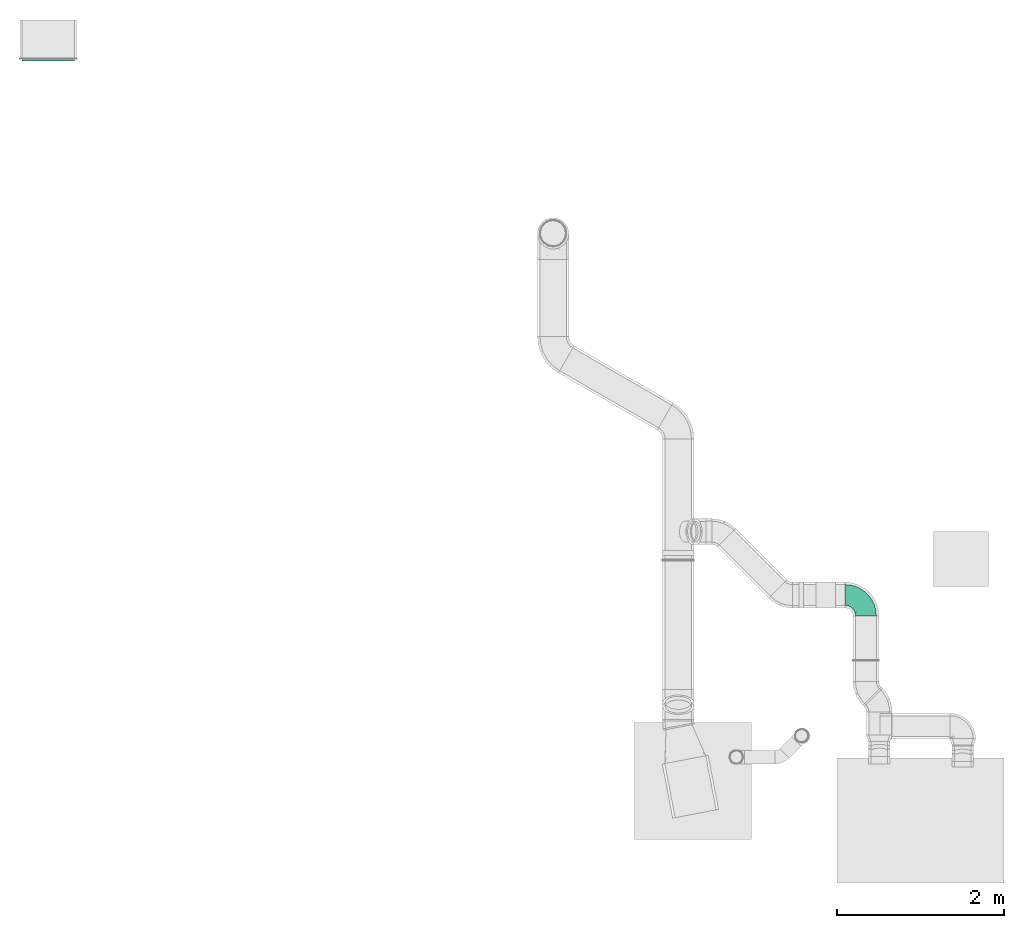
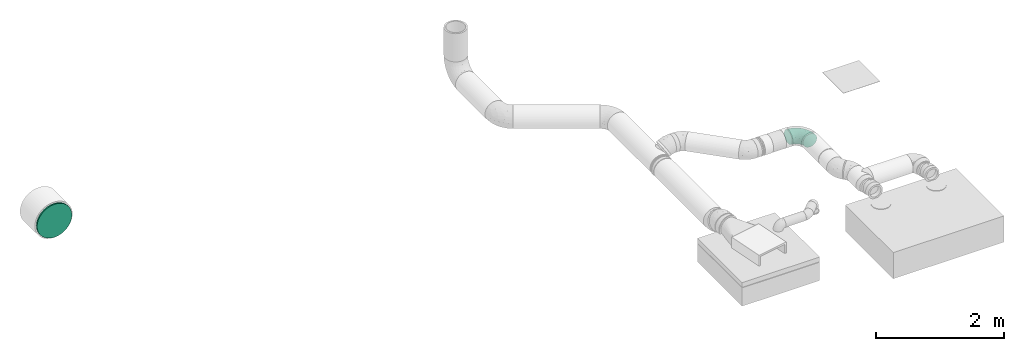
# One storey, part 20 of 21: 2 flow fittings.
"""IFC2X3 building model written with IfcOpenShell, lengths in millimetres."""

from ifc_helpers import new_model, entity, si_unit, converted_unit, derived_unit, direction, frame, origin_with_axes, place, context, subcontext, project, spatial, open_shell, surface_model, source, transform, mapped, type_object, element, save


model = new_model("IFC2X3")

# Units and contexts
model_context = context("Model", 3, precision=0.01, world=frame((0.0, 4.29681676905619e-09, 0.0)), true_north=direction((4.01073788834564e-13, 1.0)))
plan_context = context("Plan", 3, precision=0.01, world=frame((0.0, 4.29681676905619e-09, 0.0)), true_north=direction((4.01073788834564e-13, 1.0)))
body_context = subcontext(model_context, "Body", "Model", "MODEL_VIEW")
ifc_project = project(units=[converted_unit("PLANEANGLEUNIT", "DEGREE", entity("IfcPositiveLengthMeasure", 0.0174532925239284), si_unit("PLANEANGLEUNIT", "RADIAN"), dimensions=[0, 0, 0, 0, 0, 0, 0]), si_unit("AREAUNIT", "SQUARE_METRE"), si_unit("LENGTHUNIT", "METRE", prefix="MILLI"), si_unit("MASSUNIT", "GRAM", prefix="KILO"), si_unit("POWERUNIT", "WATT"), si_unit("PRESSUREUNIT", "PASCAL"), si_unit("FORCEUNIT", "NEWTON", prefix="KILO"), si_unit("ELECTRICVOLTAGEUNIT", "VOLT"), si_unit("ELECTRICCURRENTUNIT", "AMPERE"), si_unit("THERMODYNAMICTEMPERATUREUNIT", "DEGREE_CELSIUS"), si_unit("TIMEUNIT", "SECOND"), si_unit("VOLUMEUNIT", "CUBIC_METRE"), derived_unit("LINEARVELOCITYUNIT", [(si_unit("LENGTHUNIT", "METRE"), 1), (si_unit("TIMEUNIT", "SECOND"), -1)]), derived_unit("VOLUMETRICFLOWRATEUNIT", [(si_unit("VOLUMEUNIT", "CUBIC_METRE"), 1), (si_unit("TIMEUNIT", "SECOND"), -1)]), derived_unit("THERMALTRANSMITTANCEUNIT", [(si_unit("POWERUNIT", "WATT"), 1), (si_unit("THERMODYNAMICTEMPERATUREUNIT", "KELVIN"), -1), (si_unit("AREAUNIT", "SQUARE_METRE"), -1)]), derived_unit("SOUNDPRESSUREUNIT", [(si_unit("PRESSUREUNIT", "PASCAL"), 1)])], contexts=[model_context, plan_context])

# Site, building, storey
site_placement = place(None, frame((0.0, -4.29681676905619e-09, 0.0), z_axis=(0.0, 0.0, 1.0), x_axis=(1.0, 0.0, 0.0)))
site = spatial("IfcSite", under=ifc_project, at=site_placement, Name="ENGM", CompositionType="ELEMENT")
building_placement = place(site_placement, frame((0.0, 4.29681676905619e-09, 0.0), z_axis=(0.0, 0.0, 1.0), x_axis=(1.0, 0.0, 0.0)))
building = spatial("IfcBuilding", under=site, at=building_placement, Name="TI", CompositionType="ELEMENT")
storey_placement = place(building_placement, frame((0.0, 0.0, 210900.0), z_axis=(0.0, 0.0, 1.0), x_axis=(1.0, 0.0, 0.0)))
storey = spatial("IfcBuildingStorey", under=building, at=storey_placement, Name="Nivå F", CompositionType="ELEMENT", Elevation=210900.0)

# Flow fittings
duct_fitting_type_1 = type_object("IfcDuctFittingType", Name="magicirc_tapoutlet_001", PredefinedType="CONNECTOR")
shared_shape_1 = source(origin_with_axes(), body_context, "Body", "SurfaceModel", [
    surface_model("IfcShellBasedSurfaceModel", [(20.0, -291.02204, -120.54529), (20.0, -261.91292, -175.00462), (20.0, -308.94735, 61.45345), (20.0, 315.0, 0.0), (20.0, 222.73864, -222.73864), (20.0, 261.91292, -175.00462), (20.0, -120.54529, 291.02204), (0.0, -61.45345, 308.94735), (0.0, -120.54529, 291.02204), (20.0, -261.91292, 175.00462), (0.0, -261.91292, 175.00462), (0.0, -291.02204, 120.54529), (0.0, -308.94735, -61.45345), (0.0, -291.02204, -120.54529), (20.0, -222.73864, -222.73864), (0.0, -261.91292, -175.00462), (20.0, -61.45345, -308.94735), (20.0, -120.54529, -291.02204), (0.0, -61.45345, -308.94735), (20.0, -175.00462, -261.91292), (0.0, -175.00462, -261.91292), (0.0, -120.54529, -291.02204), (0.0, 61.45345, -308.94735), (20.0, 120.54529, -291.02204), (20.0, 61.45345, -308.94735), (0.0, 120.54529, -291.02204), (0.0, 175.00462, -261.91292), (20.0, 175.00462, -261.91292), (0.0, 261.91292, -175.00462), (0.0, 291.02204, -120.54529), (0.0, 308.94735, -61.45345), (20.0, 291.02204, -120.54529), (0.0, 291.02204, 120.54529), (0.0, 261.91292, 175.00462), (20.0, 261.91292, 175.00462), (0.0, 120.54529, 291.02204), (0.0, 61.45345, 308.94735), (20.0, 120.54529, 291.02204), (20.0, 291.02204, 120.54529), (20.0, 0.0, -315.0), (20.0, -308.94735, -61.45345), (20.0, -315.0, 0.0), (20.0, 308.94735, -61.45345), (20.0, 308.94735, 61.45345), (20.0, 222.73864, 222.73864), (20.0, 175.00462, 261.91292), (20.0, 61.45345, 308.94735), (20.0, -291.02204, 120.54529), (20.0, -222.73864, 222.73864), (20.0, -61.45345, 308.94735), (20.0, -175.00462, 261.91292), (20.0, 0.0, 315.0), (0.0, 0.0, 315.0), (0.0, 222.73864, 222.73864), (0.0, 175.00462, 261.91292), (0.0, 308.94735, 61.45345), (0.0, 315.0, 0.0), (0.0, 222.73864, -222.73864), (0.0, 0.0, -315.0), (0.0, -222.73864, -222.73864), (0.0, -315.0, 0.0), (0.0, -308.94735, 61.45345), (0.0, -222.73864, 222.73864), (0.0, -175.00462, 261.91292), (-6.10075, 61.45345, -308.94735), (-6.10075, 175.00462, -261.91292), (-6.10075, 120.54529, -291.02204), (-6.10075, 0.0, -315.0), (-6.10075, -61.45345, -308.94735), (-6.10075, 291.02204, 120.54529), (-6.10075, 291.02204, -120.54529), (-6.10075, 261.91292, -175.00462), (-6.10075, 308.94735, 61.45345), (-6.10075, 222.73864, -222.73864), (-6.10075, -315.0, 0.0), (-6.10075, -308.94735, 61.45345), (-6.10075, -175.00462, -261.91292), (-6.10075, -120.54529, -291.02204), (-6.10075, -222.73864, -222.73864), (-6.10075, -261.91292, -175.00462), (-6.10075, -291.02204, -120.54529), (-6.10075, -308.94735, -61.45345), (-6.10075, 308.94735, -61.45345), (-6.10075, 222.73864, 222.73864), (-6.10075, 261.91292, 175.00462), (-6.10075, 175.00462, 261.91292), (-6.10075, 120.54529, 291.02204), (-6.10075, 0.0, 315.0), (-6.10075, 61.45345, 308.94735), (-6.10075, -261.91292, 175.00462), (-6.10075, -222.73864, 222.73864), (-6.10075, -291.02204, 120.54529), (-6.10075, -120.54529, 291.02204), (-6.10075, -61.45345, 308.94735), (-6.10075, -175.00462, 261.91292), (-6.10075, 315.0, 0.0)], [open_shell([[[0, 1, 2]], [[3, 4, 5]], [[6, 7, 8]], [[9, 10, 11]], [[0, 12, 13]], [[14, 1, 15]], [[16, 17, 18]], [[19, 20, 21]], [[21, 18, 17]], [[22, 23, 24]], [[25, 26, 27]], [[23, 22, 25]], [[28, 5, 4]], [[29, 30, 31]], [[32, 33, 34]], [[35, 36, 37]], [[23, 27, 24]], [[24, 38, 39]], [[3, 24, 27]], [[31, 3, 5]], [[4, 3, 27]], [[1, 39, 2]], [[16, 39, 17]], [[14, 19, 39]], [[39, 19, 17]], [[39, 1, 14]], [[0, 2, 40]], [[40, 2, 41]], [[3, 31, 42]], [[3, 43, 38]], [[38, 34, 39]], [[39, 34, 44]], [[39, 45, 37]], [[46, 39, 37]], [[39, 44, 45]], [[9, 39, 46]], [[2, 39, 9]], [[47, 2, 9]], [[46, 48, 9]], [[49, 6, 46]], [[50, 46, 6]], [[48, 46, 50]], [[49, 46, 51]], [[24, 3, 38]], [[52, 51, 46]], [[36, 46, 37]], [[35, 37, 45]], [[52, 46, 36]], [[53, 54, 45]], [[54, 35, 45]], [[45, 44, 53]], [[32, 34, 38]], [[55, 38, 43]], [[56, 43, 3]], [[44, 33, 53]], [[44, 34, 33]], [[38, 55, 32]], [[43, 56, 55]], [[56, 3, 42]], [[30, 42, 31]], [[29, 31, 5]], [[56, 42, 30]], [[4, 57, 28]], [[28, 29, 5]], [[25, 27, 23]], [[58, 24, 39]], [[4, 26, 57]], [[4, 27, 26]], [[24, 58, 22]], [[58, 39, 16]], [[19, 21, 17]], [[58, 16, 18]], [[20, 19, 59]], [[19, 14, 59]], [[13, 1, 0]], [[12, 0, 40]], [[60, 40, 41]], [[14, 15, 59]], [[13, 15, 1]], [[40, 60, 12]], [[60, 41, 2]], [[61, 2, 47]], [[11, 47, 9]], [[60, 2, 61]], [[47, 11, 61]], [[62, 10, 9]], [[9, 48, 62]], [[8, 50, 6]], [[7, 6, 49]], [[52, 49, 51]], [[48, 63, 62]], [[48, 50, 63]], [[8, 63, 50]], [[49, 52, 7]], [[24, 3, 39]], [[14, 39, 1]], [[39, 38, 34]], [[39, 46, 9]], [[39, 9, 47]], [[39, 47, 2]], [[3, 38, 39]], [[64, 65, 66]], [[67, 68, 64]], [[65, 64, 69]], [[70, 71, 72]], [[71, 73, 72]], [[65, 72, 73]], [[64, 74, 75]], [[76, 64, 77]], [[76, 78, 74]], [[64, 68, 77]], [[74, 79, 80]], [[80, 81, 74]], [[74, 78, 79]], [[64, 76, 74]], [[82, 70, 72]], [[65, 69, 72]], [[69, 64, 83]], [[69, 83, 84]], [[85, 64, 86]], [[64, 87, 86]], [[85, 83, 64]], [[88, 86, 87]], [[89, 90, 87]], [[89, 75, 91]], [[75, 89, 87]], [[92, 93, 87]], [[87, 94, 92]], [[90, 94, 87]], [[75, 87, 64]], [[95, 82, 72]], [[87, 52, 36]], [[88, 36, 35]], [[86, 35, 54]], [[87, 36, 88]], [[86, 88, 35]], [[83, 85, 54]], [[85, 86, 54]], [[54, 53, 83]], [[69, 33, 32]], [[72, 32, 55]], [[95, 55, 56]], [[53, 84, 83]], [[53, 33, 84]], [[69, 84, 33]], [[32, 72, 69]], [[55, 95, 72]], [[95, 56, 30]], [[82, 30, 29]], [[70, 29, 28]], [[95, 30, 82]], [[70, 82, 29]], [[57, 73, 71]], [[71, 70, 28]], [[71, 28, 57]], [[66, 26, 25]], [[64, 25, 22]], [[67, 22, 58]], [[57, 65, 73]], [[57, 26, 65]], [[66, 65, 26]], [[25, 64, 66]], [[22, 67, 64]], [[67, 58, 18]], [[68, 18, 21]], [[77, 21, 20]], [[67, 18, 68]], [[20, 76, 77]], [[77, 68, 21]], [[76, 20, 78]], [[20, 59, 78]], [[80, 15, 13]], [[81, 13, 12]], [[74, 12, 60]], [[59, 79, 78]], [[59, 15, 79]], [[80, 79, 15]], [[13, 81, 80]], [[12, 74, 81]], [[74, 60, 61]], [[75, 61, 11]], [[91, 11, 10]], [[74, 61, 75]], [[11, 91, 75]], [[10, 89, 91]], [[90, 89, 10]], [[10, 62, 90]], [[92, 63, 8]], [[93, 8, 7]], [[87, 7, 52]], [[62, 94, 90]], [[62, 63, 94]], [[92, 94, 63]], [[8, 93, 92]], [[7, 87, 93]], [[65, 64, 72]], [[72, 64, 69]], [[84, 69, 64]], [[84, 64, 83]], [[88, 86, 64]], [[64, 85, 83]], [[87, 88, 64]], [[91, 89, 87]], [[64, 75, 91]], [[64, 91, 87]]])]),
])
flow_fitting_1_placement = place(storey_placement, frame((599767.06731, 699175.62991, 463.401000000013), z_axis=(1.0, 0.0, 0.0), x_axis=(0.0, 0.999999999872, -1.5999999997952e-05)))
element("IfcFlowFitting", 1, at=flow_fitting_1_placement, inside=storey, type_object=duct_fitting_type_1, Name="magicirc_tapoutlet_001", context=body_context, shape_type="MappedRepresentation", body=[
    mapped(shared_shape_1, transform((0.0, 0.0, 0.0), scale=1.0)),
])
duct_fitting_type_2 = type_object("IfcDuctFittingType", Name="magicirc_elbow_full_radius_001", PredefinedType="BEND")
shared_shape_2 = source(origin_with_axes(), body_context, "Body", "SurfaceModel", [
    surface_model("IfcShellBasedSurfaceModel", [(-250.0, 0.0, -125.0), (-250.0, -88.38835, -88.38835), (-250.0, 32.35238, -120.74073), (-250.0, 62.5, -108.25318), (-250.0, 88.38835, -88.38835), (-250.0, 120.74073, -32.35238), (-250.0, 108.25318, -62.5), (-250.0, -62.5, -108.25318), (-250.0, -32.35238, -120.74073), (-250.0, -108.25318, -62.5), (-250.0, -120.74073, -32.35238), (-250.0, -125.0, 0.0), (-250.0, -88.38835, 88.38835), (-250.0, 120.74073, 32.35238), (-250.0, -62.5, 108.25318), (-250.0, 108.25318, 62.5), (-250.0, 62.5, 108.25318), (-250.0, 88.38835, 88.38835), (-250.0, 32.35238, 120.74073), (-250.0, -108.25318, 62.5), (-250.0, -120.74073, 32.35238), (-250.0, -32.35238, 120.74073), (-250.0, 0.0, 125.0), (-250.0, 125.0, 0.0), (-32.35238, 250.0, -120.74073), (88.38835, 250.0, -88.38835), (0.0, 250.0, -125.0), (-88.38835, 250.0, -88.38835), (-62.5, 250.0, -108.25318), (-108.25318, 250.0, -62.5), (-120.74073, 250.0, -32.35238), (32.35238, 250.0, -120.74073), (62.5, 250.0, -108.25318), (120.74073, 250.0, -32.35238), (108.25318, 250.0, -62.5), (125.0, 250.0, 0.0), (88.38835, 250.0, 88.38835), (62.5, 250.0, 108.25318), (-120.74073, 250.0, 32.35238), (-108.25318, 250.0, 62.5), (-62.5, 250.0, 108.25318), (-88.38835, 250.0, 88.38835), (-32.35238, 250.0, 120.74073), (120.74073, 250.0, 32.35238), (108.25318, 250.0, 62.5), (0.0, 250.0, 125.0), (32.35238, 250.0, 120.74073), (-125.0, 250.0, 0.0), (-210.86951, 73.07385, 104.36376), (-184.88194, -119.30291, 0.0), (-195.25827, -115.02308, 37.93413), (-218.90842, -122.27984, 0.0), (53.79635, 43.6295, 43.29829), (28.71982, 26.00799, 63.66662), (24.95926, 3.36677, 37.10772), (-143.32142, -83.48741, 74.82033), (-148.43956, -66.68827, 93.84246), (-193.81021, -79.4231, 92.40443), (-215.01547, -101.28826, 70.7859), (-170.24804, -98.61932, 63.57524), (15.48822, 139.1377, 119.17758), (51.95219, 181.65541, 109.88177), (21.43204, 199.18477, 122.23461), (-92.12122, -88.57213, 0.0), (-62.5, -74.75953, 0.0), (-102.19713, -88.25159, 37.84333), (114.99061, 194.89886, 37.86695), (105.10704, 146.7157, 35.60305), (110.84382, 153.31219, 0.0), (-35.72732, -56.0131, 0.0), (-19.33443, -42.66525, 24.1819), (-49.61048, -64.84865, 21.07887), (-134.49668, -18.50083, 117.62872), (-140.3114, 18.31287, 124.83908), (-163.87891, -5.14412, 123.50312), (-19.95522, 81.94859, 120.03225), (-25.80872, 122.13882, 124.73796), (-52.10962, 92.30678, 124.9631), (-31.05983, -5.99293, 89.90144), (-41.72797, 23.84412, 111.01725), (-81.01653, -19.40599, 104.87443), (-106.83954, -79.59981, 60.56422), (-146.98015, -105.1079, 35.84762), (-71.29451, -72.63164, 38.82328), (-73.06126, 220.06184, 103.19018), (-98.79093, 205.2116, 84.29848), (-75.91528, 182.06995, 107.88634), (-199.69686, 99.57099, 85.2884), (-203.49675, 11.2922, 124.81465), (-116.53306, 171.44239, 81.08815), (-111.87993, 90.36566, 118.79078), (-104.67411, 138.16705, 105.76412), (-145.96795, 109.49288, 99.87096), (-196.30432, -21.44057, 122.11502), (-215.51315, -51.86659, 112.81539), (-204.26429, 116.15735, 61.96761), (-171.07855, 119.2179, 78.533), (-181.86003, 134.49131, 46.84392), (-214.14919, 125.14691, 34.6495), (-134.49131, 181.86003, 46.84392), (-159.17408, 159.17408, 29.15352), (-152.46395, 152.46395, 55.37908), (-211.37287, 131.11793, 0.0), (-188.77781, 138.76885, 22.08599), (-176.52685, 148.87287, 0.0), (-90.84545, 14.70792, 120.26896), (-165.92299, 79.38605, 109.77065), (-194.42694, 43.85537, 119.55352), (38.35285, 111.1449, 103.53188), (67.56111, 151.47747, 93.91415), (101.2929, 214.32433, 70.67839), (-11.88244, 26.84905, 98.98258), (69.59743, 58.34132, 24.07272), (88.25159, 102.19715, 37.84335), (71.67798, 75.77581, 46.99643), (-84.05365, 84.19131, 124.04603), (-74.05474, 58.59216, 124.60033), (122.27984, 218.90842, 0.0), (-11.46722, -27.90939, 45.97099), (2.8419, -2.84189, 63.66452), (-36.75436, -35.39096, 65.83052), (79.49517, 196.80314, 92.78444), (59.14009, 215.57843, 109.07718), (-43.54002, 203.9777, 118.93211), (-3.74505, 217.94309, 124.98888), (47.42619, 250.0, 114.49695), (-11.6252, 186.58509, 124.95553), (-37.69004, 161.1507, 123.41409), (-148.87287, 176.52685, 0.0), (-138.76885, 188.77781, 22.08599), (-131.11793, 211.37287, 0.0), (-125.14691, 214.14919, 34.6495), (-84.38488, 127.39299, 117.02266), (-59.20815, 123.25028, 123.23304), (-63.59847, 155.77939, 118.03647), (56.0131, 35.72732, 0.0), (48.70082, 26.28379, 21.1922), (-116.19732, 204.24725, 61.91096), (9.4067, 98.99033, 114.49463), (79.67349, 106.95659, 60.52634), (-16.17619, 250.0, 122.87036), (82.93177, 142.04467, 75.00397), (-143.56269, 53.49001, 122.15523), (102.38473, 121.74244, 0.0), (88.57213, 92.12122, 0.0), (44.74763, 58.49273, 72.95926), (18.11496, 55.96411, 95.23773), (9.69309, 23.39724, 81.63831), (-67.51915, -39.60495, 84.29377), (98.46572, 169.05992, 63.37638), (-170.8102, -51.18183, 108.87038), (-153.31219, -110.84382, 0.0), (-123.62588, -42.04646, 104.74517), (-73.23164, -60.48705, 64.15546), (-139.54816, 139.54816, 82.62583), (-108.1391, 55.1991, 124.67421), (-60.03995, 38.39208, 120.18375), (65.18219, 107.64577, 80.24903), (43.4165, 83.93892, 89.61045), (-4.9115, 60.75686, 109.8509), (-110.21718, -65.96071, 80.65176), (-43.62951, -53.79636, 43.29829), (37.26667, 8.95465, 0.0), (14.15601, -14.15601, 0.0), (-8.95465, -37.26667, 0.0), (-121.74244, -102.38473, 0.0), (74.75953, 62.5, 0.0), (119.30291, 184.88194, 0.0), (-48.82206, -1.60827, -102.07682), (-81.15095, 5.22067, -115.678), (-46.7578, 29.40312, -114.58593), (-204.53459, 115.51747, -62.86787), (-214.14919, 125.14691, -34.6495), (-181.86003, 134.49131, -46.84392), (-14.61222, -31.35351, -44.43883), (11.84236, -11.84236, -33.95092), (-22.4719, -45.07054, -24.34392), (-223.1891, 97.50172, -81.04959), (-204.40195, 73.34241, -105.17442), (-205.98338, 43.52544, -118.79771), (-115.51747, 204.53457, -62.86787), (-123.49723, 170.45377, -74.23949), (-134.49131, 181.86003, -46.84392), (-183.06045, -52.02369, -110.01015), (-110.47452, -37.60202, -103.79083), (-151.64326, -67.35, -94.13381), (-188.77781, 138.76885, -22.08599), (-114.75143, 65.55471, -123.1751), (-107.82895, 32.74573, -124.62786), (-148.44163, 51.08373, -122.1244), (-159.17408, 159.17408, -29.15352), (-138.76885, 188.77781, -22.08599), (-119.19358, 124.76558, -104.29075), (-156.37688, 113.94777, -91.79313), (-139.54817, 139.54815, -82.62583), (-17.8555, 5.83155, -89.841), (-53.98544, -29.45541, -85.32833), (52.02369, 183.06045, -110.01015), (-194.89886, -114.99061, -37.86695), (68.13995, 56.13213, -24.5986), (53.12789, 44.54335, -46.08326), (71.63973, 76.43802, -47.84654), (-218.9084, -122.27984, 0.0), (-142.39083, -82.85696, -75.24042), (-197.12937, -79.50134, -92.82571), (-214.32433, -101.2929, -70.67839), (-187.89553, 11.55914, -124.94803), (-76.28398, -71.66476, -47.61611), (-102.35833, -88.16959, -38.28022), (-107.64683, -79.80589, -60.8013), (-55.74247, -67.93132, -24.47435), (-73.34242, 204.40195, -105.17441), (-199.49861, -21.42932, -122.24748), (-107.64576, -65.1822, -80.24902), (-0.34225, 0.34224, -70.72271), (29.30666, 54.05255, -85.49962), (16.15015, 142.42885, -119.37772), (43.11376, 128.52401, -105.34342), (14.39958, 85.87454, -108.99442), (-152.46395, 152.46393, -55.37908), (-125.14691, 214.14919, -34.6495), (-83.7122, 64.8786, -124.99462), (-54.88917, 96.03345, -124.99152), (-55.00537, 55.00536, -122.31604), (114.99061, 194.89886, -37.86695), (-97.50172, 223.1891, -81.04959), (-101.67989, 188.66846, -87.26306), (21.42932, 199.49861, -122.24748), (-11.55914, 187.89551, -124.94803), (-17.77846, 99.36444, -122.09337), (-43.52544, 205.98336, -118.79771), (-142.42885, -16.15015, -119.37772), (79.50134, 197.12936, -92.82571), (-188.66846, 101.67988, -87.26306), (-170.17192, 125.74792, -71.81093), (45.368, 22.81369, -24.20694), (101.2929, 214.32433, -70.67839), (105.10171, 146.67975, -35.58648), (88.16959, 102.35833, -38.28022), (79.96492, 108.09127, -60.85482), (-146.67975, -105.10171, -35.58648), (122.27984, 218.9084, 0.0), (98.46572, 169.0599, -63.37638), (-144.66282, 11.20212, -124.51517), (-87.43442, 152.97293, -109.2834), (67.3894, 152.70136, -94.37252), (-152.97295, 87.4344, -109.2834), (-102.45394, 113.88071, -114.88639), (-64.92037, 173.4251, -114.6928), (-51.08373, 148.44162, -122.1244), (-30.24824, 128.8738, -124.99659), (30.47164, 29.3995, -64.89969), (53.45139, 66.81998, -68.66115), (65.18219, 107.64576, -80.24903), (82.78793, 142.70732, -75.45609), (-67.10765, -53.67876, -68.59085), (-44.54336, -53.12789, -46.08326), (-169.05992, -98.46572, -63.37638), (-77.48047, 126.65809, -119.10822), (-111.62197, 155.40485, -94.01416), (-173.42512, 64.92037, -114.69279), (-93.45156, 93.45155, -121.68252), (31.52201, 14.63788, -44.14115), (-75.97227, -25.0209, -99.65574), (-18.30454, 63.16594, -115.56557), (-16.44961, 32.13712, -103.97124), (-29.64558, -30.50919, -65.101)], [open_shell([[[0, 1, 2]], [[3, 2, 4]], [[5, 6, 4]], [[1, 4, 2]], [[4, 1, 5]], [[7, 1, 8]], [[1, 0, 8]], [[9, 10, 1]], [[11, 1, 10]], [[11, 12, 1]], [[13, 5, 1]], [[1, 14, 13]], [[13, 14, 15]], [[16, 15, 14]], [[17, 15, 16]], [[16, 14, 18]], [[19, 12, 20]], [[20, 12, 11]], [[21, 22, 14]], [[12, 14, 1]], [[14, 22, 18]], [[23, 5, 13]], [[24, 25, 26]], [[27, 24, 28]], [[27, 29, 30]], [[24, 27, 25]], [[30, 25, 27]], [[31, 25, 32]], [[31, 26, 25]], [[25, 33, 34]], [[33, 25, 35]], [[25, 36, 35]], [[25, 30, 37]], [[30, 38, 37]], [[39, 37, 38]], [[37, 39, 40]], [[40, 39, 41]], [[42, 37, 40]], [[43, 36, 44]], [[35, 36, 43]], [[37, 45, 46]], [[25, 37, 36]], [[42, 45, 37]], [[30, 47, 38]], [[17, 16, 48]], [[49, 50, 51]], [[52, 53, 54]], [[55, 56, 57]], [[58, 50, 59]], [[60, 61, 62]], [[63, 64, 65]], [[66, 67, 68]], [[69, 70, 71]], [[72, 73, 74]], [[75, 76, 77]], [[12, 57, 14]], [[78, 79, 80]], [[81, 82, 65]], [[64, 83, 65]], [[84, 85, 86]], [[12, 19, 58]], [[12, 58, 57]], [[17, 48, 87]], [[22, 88, 18]], [[86, 85, 89]], [[90, 91, 92]], [[93, 21, 94]], [[95, 96, 97]], [[85, 41, 39]], [[15, 17, 87]], [[21, 93, 22]], [[23, 13, 98]], [[99, 100, 101]], [[91, 86, 89]], [[102, 103, 104]], [[80, 79, 105]], [[106, 48, 107]], [[107, 16, 18]], [[14, 94, 21]], [[61, 108, 109]], [[36, 110, 44]], [[79, 78, 111]], [[112, 113, 114]], [[84, 40, 41]], [[44, 66, 43]], [[115, 116, 77]], [[45, 62, 46]], [[66, 117, 43]], [[118, 119, 120]], [[37, 121, 36]], [[121, 37, 122]], [[123, 124, 42]], [[98, 97, 103]], [[66, 44, 110]], [[15, 87, 95]], [[122, 37, 125]], [[126, 127, 76]], [[128, 129, 130]], [[129, 131, 130]], [[128, 104, 100]], [[130, 131, 47]], [[132, 133, 134]], [[42, 40, 123]], [[99, 129, 100]], [[135, 112, 136]], [[126, 123, 127]], [[137, 38, 131]], [[138, 60, 76]], [[19, 20, 50]], [[101, 100, 97]], [[114, 113, 139]], [[124, 45, 140]], [[46, 62, 122]], [[103, 100, 104]], [[92, 96, 87]], [[119, 118, 54]], [[98, 95, 97]], [[141, 121, 109]], [[88, 22, 93]], [[142, 107, 73]], [[143, 113, 144]], [[145, 146, 147]], [[78, 148, 120]], [[81, 65, 83]], [[39, 38, 137]], [[85, 137, 89]], [[139, 67, 149]], [[121, 110, 36]], [[72, 93, 150]], [[88, 73, 107]], [[55, 59, 81]], [[94, 57, 150]], [[50, 20, 51]], [[50, 151, 82]], [[62, 45, 124]], [[60, 62, 126]], [[109, 121, 61]], [[110, 121, 149]], [[84, 123, 40]], [[127, 134, 133]], [[152, 72, 150]], [[105, 73, 72]], [[149, 67, 66]], [[149, 141, 139]], [[153, 81, 83]], [[82, 59, 50]], [[88, 93, 74]], [[107, 18, 88]], [[100, 129, 128]], [[131, 129, 99]], [[131, 99, 137]], [[131, 38, 47]], [[99, 101, 89]], [[39, 137, 85]], [[99, 89, 137]], [[89, 154, 91]], [[92, 154, 96]], [[91, 132, 134]], [[102, 23, 98]], [[100, 103, 97]], [[102, 98, 103]], [[95, 13, 15]], [[95, 98, 13]], [[96, 95, 87]], [[92, 87, 106]], [[96, 154, 101]], [[90, 92, 106]], [[91, 154, 92]], [[107, 142, 106]], [[105, 116, 155]], [[115, 155, 116]], [[116, 156, 75]], [[107, 48, 16]], [[87, 48, 106]], [[80, 105, 72]], [[156, 105, 79]], [[152, 150, 56]], [[148, 78, 80]], [[152, 148, 80]], [[145, 157, 158]], [[146, 111, 147]], [[108, 157, 109]], [[79, 111, 159]], [[76, 127, 133]], [[96, 101, 97]], [[89, 101, 154]], [[73, 105, 155]], [[90, 106, 142]], [[160, 153, 148]], [[148, 153, 120]], [[153, 160, 81]], [[120, 153, 161]], [[118, 120, 161]], [[78, 120, 119]], [[161, 70, 118]], [[162, 136, 54]], [[163, 70, 164]], [[70, 163, 54]], [[71, 70, 161]], [[151, 50, 49]], [[83, 71, 161]], [[69, 164, 70]], [[153, 83, 161]], [[65, 165, 63]], [[55, 81, 160]], [[82, 81, 59]], [[56, 55, 160]], [[57, 59, 55]], [[160, 148, 152]], [[57, 56, 150]], [[160, 152, 56]], [[80, 72, 152]], [[71, 64, 69]], [[134, 123, 86]], [[77, 76, 133]], [[138, 76, 75]], [[126, 76, 60]], [[123, 134, 127]], [[91, 134, 86]], [[91, 90, 132]], [[115, 132, 90]], [[133, 132, 115]], [[75, 77, 116]], [[133, 115, 77]], [[155, 90, 142]], [[90, 155, 115]], [[73, 155, 142]], [[108, 61, 60]], [[141, 109, 157]], [[138, 75, 159]], [[158, 146, 145]], [[139, 141, 157]], [[121, 141, 149]], [[145, 114, 139]], [[139, 113, 67]], [[145, 139, 157]], [[112, 114, 52]], [[136, 112, 52]], [[166, 144, 112]], [[54, 136, 52]], [[135, 166, 112]], [[136, 162, 135]], [[67, 143, 68]], [[65, 82, 165]], [[112, 144, 113]], [[68, 167, 66]], [[85, 84, 41]], [[123, 84, 86]], [[20, 11, 51]], [[117, 66, 167]], [[117, 35, 43]], [[66, 110, 149]], [[57, 94, 14]], [[93, 94, 150]], [[50, 58, 19]], [[57, 58, 59]], [[122, 62, 61]], [[46, 122, 125]], [[121, 122, 61]], [[124, 123, 126]], [[42, 124, 140]], [[62, 124, 126]], [[88, 74, 73]], [[93, 72, 74]], [[113, 143, 67]], [[64, 71, 83]], [[75, 156, 79]], [[116, 105, 156]], [[147, 78, 119]], [[159, 111, 146]], [[138, 146, 108]], [[79, 159, 75]], [[78, 147, 111]], [[147, 53, 145]], [[53, 147, 119]], [[114, 145, 52]], [[146, 138, 159]], [[108, 60, 138]], [[54, 53, 119]], [[52, 145, 53]], [[54, 118, 70]], [[163, 162, 54]], [[151, 165, 82]], [[157, 108, 158]], [[146, 158, 108]], [[168, 169, 170]], [[171, 172, 173]], [[174, 175, 176]], [[4, 177, 178]], [[179, 2, 3]], [[180, 181, 182]], [[102, 172, 23]], [[183, 184, 185]], [[104, 186, 102]], [[187, 188, 189]], [[190, 128, 191]], [[171, 5, 172]], [[192, 193, 194]], [[168, 195, 196]], [[197, 31, 32]], [[4, 6, 177]], [[198, 10, 9]], [[199, 200, 201]], [[198, 202, 10]], [[203, 204, 185]], [[205, 198, 9]], [[179, 3, 178]], [[7, 183, 204]], [[4, 178, 3]], [[206, 0, 2]], [[186, 172, 102]], [[207, 208, 209]], [[205, 9, 1]], [[210, 208, 207]], [[211, 27, 28]], [[212, 0, 206]], [[1, 7, 204]], [[213, 185, 184]], [[214, 195, 215]], [[128, 190, 104]], [[216, 217, 218]], [[173, 190, 219]], [[176, 69, 210]], [[30, 220, 47]], [[221, 222, 223]], [[34, 33, 224]], [[220, 180, 182]], [[29, 27, 225]], [[226, 225, 211]], [[26, 227, 228]], [[228, 24, 26]], [[0, 212, 8]], [[31, 227, 26]], [[216, 218, 229]], [[211, 28, 230]], [[8, 183, 7]], [[212, 231, 183]], [[232, 197, 32]], [[233, 171, 234]], [[235, 200, 199]], [[175, 164, 176]], [[199, 144, 166]], [[169, 188, 223]], [[236, 25, 34]], [[228, 227, 216]], [[237, 238, 239]], [[198, 240, 151]], [[241, 167, 224]], [[236, 224, 242]], [[243, 189, 188]], [[220, 182, 191]], [[244, 226, 211]], [[197, 245, 217]], [[226, 181, 180]], [[246, 192, 247]], [[248, 230, 249]], [[130, 191, 128]], [[32, 25, 232]], [[250, 216, 229]], [[219, 190, 182]], [[186, 190, 173]], [[251, 215, 252]], [[253, 254, 239]], [[165, 208, 63]], [[207, 255, 256]], [[209, 240, 257]], [[33, 35, 241]], [[224, 33, 241]], [[224, 68, 237]], [[28, 24, 230]], [[244, 211, 248]], [[246, 178, 233]], [[179, 189, 206]], [[244, 248, 258]], [[244, 192, 259]], [[222, 229, 223]], [[189, 260, 246]], [[193, 233, 234]], [[187, 246, 261]], [[231, 212, 206]], [[183, 8, 212]], [[185, 204, 183]], [[205, 204, 257]], [[31, 197, 227]], [[216, 227, 197]], [[236, 232, 25]], [[245, 254, 253]], [[252, 239, 201]], [[237, 242, 224]], [[257, 240, 198]], [[257, 203, 209]], [[24, 228, 230]], [[249, 230, 228]], [[179, 178, 260]], [[206, 2, 179]], [[190, 186, 104]], [[172, 186, 173]], [[234, 171, 173]], [[172, 5, 23]], [[177, 171, 233]], [[5, 171, 6]], [[130, 47, 220]], [[190, 191, 182]], [[130, 220, 191]], [[180, 30, 29]], [[30, 180, 220]], [[225, 180, 29]], [[210, 69, 64]], [[214, 251, 262]], [[219, 234, 173]], [[234, 194, 193]], [[259, 194, 181]], [[246, 233, 193]], [[244, 258, 247]], [[246, 193, 192]], [[259, 181, 226]], [[181, 194, 219]], [[244, 259, 226]], [[194, 259, 192]], [[181, 219, 182]], [[234, 219, 194]], [[184, 183, 231]], [[203, 185, 213]], [[169, 184, 231]], [[213, 184, 263]], [[231, 206, 243]], [[169, 223, 170]], [[264, 218, 265]], [[217, 215, 218]], [[169, 168, 263]], [[196, 266, 255]], [[243, 169, 231]], [[221, 187, 261]], [[209, 203, 213]], [[204, 203, 257]], [[196, 195, 266]], [[209, 208, 240]], [[255, 209, 213]], [[210, 207, 256]], [[209, 255, 207]], [[213, 196, 255]], [[210, 256, 176]], [[64, 63, 210]], [[174, 214, 175]], [[256, 255, 266]], [[174, 176, 256]], [[175, 162, 163]], [[256, 266, 174]], [[214, 174, 266]], [[176, 164, 69]], [[218, 215, 265]], [[252, 201, 200]], [[265, 170, 264]], [[216, 197, 217]], [[188, 221, 223]], [[229, 222, 250]], [[258, 222, 261]], [[250, 222, 249]], [[245, 197, 232]], [[215, 217, 253]], [[254, 232, 242]], [[253, 217, 245]], [[232, 254, 245]], [[242, 237, 239]], [[242, 239, 254]], [[201, 239, 238]], [[238, 143, 144]], [[251, 252, 200]], [[215, 253, 252]], [[239, 252, 253]], [[238, 199, 201]], [[199, 135, 235]], [[262, 200, 235]], [[215, 251, 214]], [[264, 223, 229]], [[262, 235, 175]], [[214, 262, 175]], [[251, 200, 262]], [[135, 199, 166]], [[135, 162, 235]], [[261, 222, 221]], [[188, 187, 221]], [[246, 187, 189]], [[249, 228, 250]], [[216, 250, 228]], [[240, 165, 151]], [[238, 237, 143]], [[210, 63, 208]], [[151, 49, 198]], [[202, 198, 49]], [[202, 11, 10]], [[204, 205, 1]], [[198, 205, 257]], [[224, 236, 34]], [[232, 236, 242]], [[211, 225, 27]], [[180, 225, 226]], [[171, 177, 6]], [[178, 177, 233]], [[230, 248, 211]], [[258, 248, 249]], [[222, 258, 249]], [[247, 258, 261]], [[246, 247, 261]], [[244, 247, 192]], [[179, 260, 189]], [[178, 246, 260]], [[144, 199, 238]], [[208, 165, 240]], [[162, 175, 235]], [[163, 164, 175]], [[168, 170, 265]], [[195, 168, 265]], [[168, 196, 263]], [[223, 264, 170]], [[218, 264, 229]], [[215, 195, 265]], [[195, 214, 266]], [[189, 243, 206]], [[169, 243, 188]], [[68, 224, 167]], [[68, 143, 237]], [[213, 263, 196]], [[169, 263, 184]]])]),
])
flow_fitting_2_placement = place(storey_placement, frame((609569.51365, 692765.29135, 2600.0), z_axis=(0.0, 0.0, 1.0), x_axis=(0.0, 1.0, 0.0)))
element("IfcFlowFitting", 2, at=flow_fitting_2_placement, inside=storey, type_object=duct_fitting_type_2, Name="magicirc_elbow_full_radius_001", context=body_context, shape_type="MappedRepresentation", body=[
    mapped(shared_shape_2, transform((0.0, 0.0, 0.0), scale=1.0)),
])

save(model, "model.ifc")
